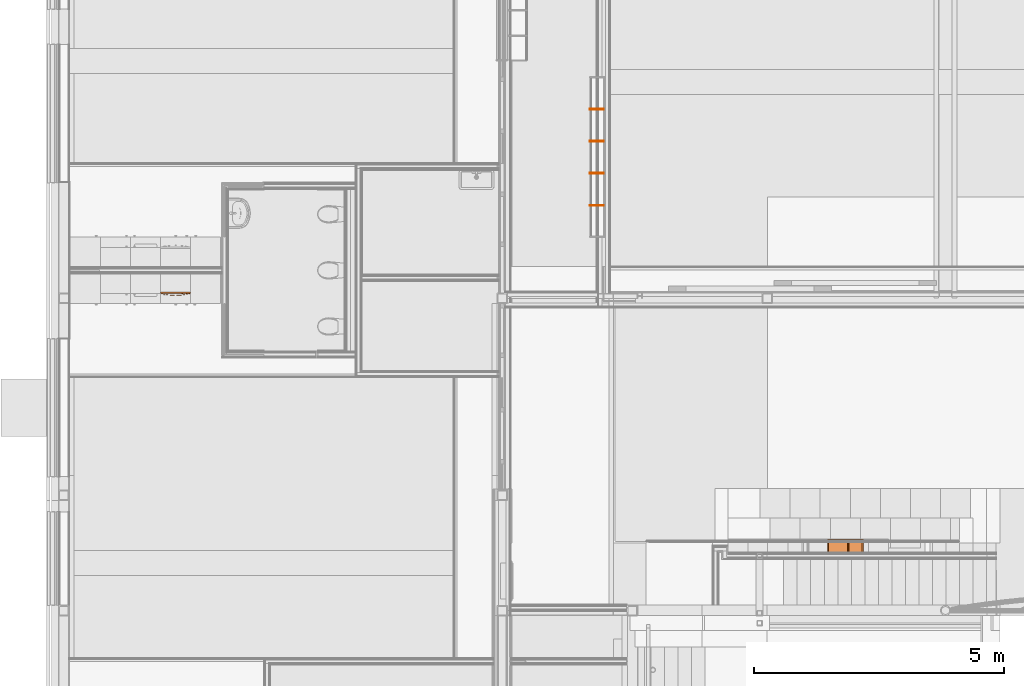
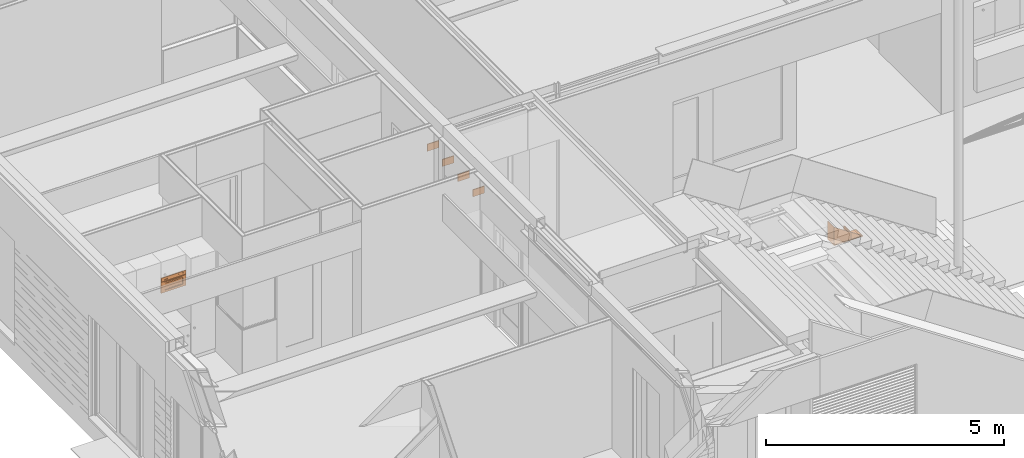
# One storey, part 162 of 165: 7 proxies.
"""IFC2X3 building model written with IfcOpenShell, lengths in millimetres."""

from ifc_helpers import new_model, entity, si_unit, converted_unit, derived_unit, money_unit, direction, frame, origin_with_axes, place, context, subcontext, project, spatial, faceted_brep, material, type_object, element, save


model = new_model("IFC2X3")

# Units and contexts
model_context = context("Model", 3, precision=0.01, world=origin_with_axes(), true_north=direction((0.0, 1.0)))
body_context = subcontext(model_context, "Body", "Model", "MODEL_VIEW")
ifc_project = project(units=[si_unit("LENGTHUNIT", "METRE", prefix="MILLI"), si_unit("AREAUNIT", "SQUARE_METRE"), si_unit("VOLUMEUNIT", "CUBIC_METRE"), converted_unit("PLANEANGLEUNIT", "DEGREE", entity("IfcPlaneAngleMeasure", 0.0174532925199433), si_unit("PLANEANGLEUNIT", "RADIAN"), dimensions=[0, 0, 0, 0, 0, 0, 0]), money_unit("EUR"), converted_unit("TIMEUNIT", "Year", entity("IfcTimeMeasure", 31556926.0), si_unit("TIMEUNIT", "SECOND"), dimensions=[0, 0, 1, 0, 0, 0, 0]), si_unit("MASSUNIT", "GRAM", prefix="KILO"), si_unit("THERMODYNAMICTEMPERATUREUNIT", "DEGREE_CELSIUS"), si_unit("LUMINOUSINTENSITYUNIT", "LUMEN"), si_unit("ENERGYUNIT", "JOULE", prefix="MEGA"), derived_unit("THERMALCONDUCTANCEUNIT", [(si_unit("POWERUNIT", "WATT"), 1), (si_unit("LENGTHUNIT", "METRE"), -1), (si_unit("THERMODYNAMICTEMPERATUREUNIT", "KELVIN"), -1)]), derived_unit("SPECIFICHEATCAPACITYUNIT", [(si_unit("ENERGYUNIT", "JOULE"), 1), (si_unit("MASSUNIT", "GRAM", prefix="KILO"), -1), (si_unit("THERMODYNAMICTEMPERATUREUNIT", "KELVIN"), -1)]), derived_unit("MASSDENSITYUNIT", [(si_unit("MASSUNIT", "GRAM", prefix="KILO"), 1), (si_unit("VOLUMEUNIT", "CUBIC_METRE"), -1)])], contexts=[model_context])

# Site, building, storey
site_placement = place(None, origin_with_axes())
site = spatial("IfcSite", under=ifc_project, at=site_placement, Name="Site", CompositionType="ELEMENT")
building_placement = place(site_placement, origin_with_axes())
building = spatial("IfcBuilding", under=site, at=building_placement, Name="Naam gebouw", CompositionType="ELEMENT")
storey_placement = place(building_placement, origin_with_axes())
storey = spatial("IfcBuildingStorey", under=building, at=storey_placement, Name="Begane grond", CompositionType="ELEMENT", Elevation=0.0)

# Proxies
ifc_material = material(Name="Hout AFW")
building_element_proxy_type_1 = type_object("IfcBuildingElementProxyType", Name="Hout AFW 18", PredefinedType="NOTDEFINED")
for number, where, z_axis, x_axis, name in (
    (1, (10882.00000000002, 13955.00003229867, 200.0000000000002), (0.0, 0.0, 1.0), (-1.0, 0.0, 0.0), "i HOUT_Wand-x"),
    (2, (10882.00000000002, 14595.00003229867, 200.0000000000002), (0.0, 0.0, 1.0), (-1.0, 0.0, 0.0), "i HOUT_Wand-x"),
):
    element("IfcBuildingElementProxy", number, at=place(storey_placement, frame(where, z_axis=z_axis, x_axis=x_axis)), inside=storey, type_object=building_element_proxy_type_1, material=ifc_material, Name=name, context=body_context, shape_type="Brep", body=[
        faceted_brep([(0.0, 18.00000000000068, 199.9999999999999), (0.0, 18.00000000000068, 17.99999999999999), (0.0, 0.0, 17.99999999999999), (0.0, 0.0, 199.9999999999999), (282.0, 18.00000000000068, 199.9999999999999), (282.0, 18.00000000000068, 17.99999999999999), (282.0, 0.0, 17.99999999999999), (282.0, 0.0, 199.9999999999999)], [[[0, 1, 2, 3]], [[4, 5, 1, 0]], [[5, 6, 2, 1]], [[3, 2, 6, 7]], [[0, 3, 7, 4]], [[7, 6, 5, 4]]]),
    ])
for number, where, z_axis, x_axis, name in (
    (3, (10882.00000000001, 12675.00003229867, 200.0000000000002), (0.0, 0.0, 1.0), (-1.0, 0.0, 0.0), "i HOUT_Wand-x"),
    (4, (10882.00000000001, 13315.00003229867, 200.0000000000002), (0.0, 0.0, 1.0), (-1.0, 0.0, 0.0), "i HOUT_Wand-x"),
):
    element("IfcBuildingElementProxy", number, at=place(storey_placement, frame(where, z_axis=z_axis, x_axis=x_axis)), inside=storey, type_object=building_element_proxy_type_1, material=ifc_material, Name=name, context=body_context, shape_type="Brep", body=[
        faceted_brep([(0.0, 18.00000000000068, 199.9999999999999), (0.0, 18.00000000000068, 17.99999999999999), (0.0, 0.0, 17.99999999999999), (0.0, 0.0, 199.9999999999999), (282.0, 18.00000000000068, 199.9999999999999), (281.9999999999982, 18.00000000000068, 17.99999999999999), (281.9999999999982, 0.0, 17.99999999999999), (282.0, 0.0, 199.9999999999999)], [[[0, 1, 2, 3]], [[4, 5, 1, 0]], [[5, 6, 2, 1]], [[3, 2, 6, 7]], [[0, 3, 7, 4]], [[7, 6, 5, 4]]]),
    ])
building_element_proxy_type_2 = type_object("IfcBuildingElementProxyType", Name="Onderkast recht 26", PredefinedType="NOTDEFINED")
proxy_1_placement = place(storey_placement, frame((16158.57015574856, 5729.997304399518, 1502.0), z_axis=(0.0, 0.0, 1.0), x_axis=(-1.0, 0.0, 0.0)))
element("IfcBuildingElementProxy", 5, at=proxy_1_placement, inside=storey, type_object=building_element_proxy_type_2, Name="_Leeg", context=body_context, shape_type="Brep", body=[
    faceted_brep([(123.5554872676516, -279.999978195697, 17.99999999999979), (96.55548726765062, -279.9999778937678, 0.0), (381.9999999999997, -280.0000000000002, 0.0), (381.9999999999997, -280.0000000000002, 18.00000000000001), (96.55549039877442, 0.0001203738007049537, 0.0), (123.5554903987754, 0.000120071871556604, 18.00000000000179), (381.9999999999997, 0.0, 0.0), (381.9999999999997, 0.0, 18.00000000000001)], [[[0, 1, 2, 3]], [[4, 1, 0, 5]], [[1, 4, 6, 2]], [[3, 2, 6, 7]], [[5, 0, 3, 7]], [[4, 5, 7, 6]]]),
    faceted_brep([(381.9999999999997, -17.99999999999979, 190.2963398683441), (123.5554901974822, -17.99999999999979, 18.00000000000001), (381.9999999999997, -17.99999999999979, 18.00000000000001), (123.5554902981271, -9.000000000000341, 18.00000000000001), (381.9999999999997, -9.000000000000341, 190.2963398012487), (381.9999999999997, -9.000000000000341, 18.00000000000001)], [[[0, 1, 2]], [[3, 1, 0, 4]], [[1, 3, 5, 2]], [[4, 0, 2, 5]], [[3, 4, 5]]]),
    faceted_brep([(400.0000000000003, -279.999981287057, 202.2963418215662), (381.9999999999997, -279.999981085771, 190.2963418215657), (381.9999999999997, -280.0000000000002, 0.0), (400.0000000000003, -280.0000000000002, 0.0), (382.0000000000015, 0.0001171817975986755, 190.2963397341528), (400.0000000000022, 0.0001169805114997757, 202.2963397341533), (381.9999999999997, 0.0, 0.0), (400.0000000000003, 0.0, 0.0)], [[[0, 1, 2, 3]], [[4, 1, 0, 5]], [[1, 4, 6, 2]], [[7, 3, 2, 6]], [[5, 0, 3, 7]], [[4, 5, 7, 6]]]),
])
proxy_2_placement = place(storey_placement, frame((15758.57015574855, 5729.997304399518, 1502.0), z_axis=(0.0, 0.0, 1.0), x_axis=(-1.0, 0.0, 0.0)))
element("IfcBuildingElementProxy", 6, at=proxy_2_placement, inside=storey, type_object=building_element_proxy_type_2, Name="_Leeg", context=body_context, shape_type="Brep", body=[
    faceted_brep([(18.00000000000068, -280.0000000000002, 18.00000000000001), (18.00000000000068, -280.0000000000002, 0.0), (391.9999999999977, -280.0000000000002, 0.0), (391.9999999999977, -280.0000000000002, 18.00000000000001), (18.00000000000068, 0.0, 18.00000000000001), (18.00000000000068, 0.0, 0.0), (391.9999999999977, 0.0, 0.0), (391.9999999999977, 0.0, 18.00000000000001)], [[[0, 1, 2, 3]], [[4, 5, 1, 0]], [[2, 1, 5, 6]], [[3, 2, 6, 7]], [[4, 0, 3, 7]], [[7, 6, 5, 4]]]),
    faceted_brep([(391.9999999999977, -17.99999999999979, 463.6296732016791), (18.00000000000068, -17.99999999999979, 214.2963398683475), (18.00000000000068, -17.99999999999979, 18.00000000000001), (391.9999999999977, -17.99999999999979, 18.00000000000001), (18.00000000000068, -9.000000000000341, 214.2963398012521), (391.9999999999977, -9.000000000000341, 463.6296731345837), (18.00000000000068, -9.000000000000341, 18.00000000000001), (391.9999999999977, -9.000000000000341, 18.00000000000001)], [[[0, 1, 2, 3]], [[4, 1, 0, 5]], [[1, 4, 6, 2]], [[6, 7, 3, 2]], [[5, 0, 3, 7]], [[4, 5, 7, 6]]]),
    faceted_brep([(18.00000000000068, -279.9999814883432, 214.2963418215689), (0.0, -279.999981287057, 202.2963418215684), (0.0, -280.0000000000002, 0.0), (18.00000000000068, -280.0000000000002, 0.0), (0.0, 0.0001169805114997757, 202.2963397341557), (18.00000000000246, 0.0001167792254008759, 214.296339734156), (0.0, 0.0, 0.0), (18.00000000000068, 0.0, 0.0)], [[[0, 1, 2, 3]], [[4, 1, 0, 5]], [[1, 4, 6, 2]], [[2, 6, 7, 3]], [[5, 0, 3, 7]], [[4, 5, 7, 6]]]),
    faceted_brep([(409.9999999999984, -279.9999858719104, 475.6296751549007), (391.9999999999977, -279.9999856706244, 463.6296751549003), (391.9999999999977, -280.0000000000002, 0.0), (409.9999999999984, -280.0000000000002, 0.0), (391.9999999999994, 0.0001125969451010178, 463.6296730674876), (410.0000000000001, 0.0001123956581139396, 475.6296730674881), (391.9999999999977, 0.0, 0.0), (409.9999999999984, 0.0, 0.0)], [[[0, 1, 2, 3]], [[4, 1, 0, 5]], [[1, 4, 6, 2]], [[7, 3, 2, 6]], [[5, 0, 3, 7]], [[4, 5, 7, 6]]]),
])
building_element_proxy_type_3 = type_object("IfcBuildingElementProxyType", Name="Oven inbouw 26", PredefinedType="NOTDEFINED")
proxy_3_placement = place(storey_placement, frame((2031.99344240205, 10914.49677686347, 1800.0), z_axis=(0.0, 0.0, 1.0), x_axis=(0.9999999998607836, -1.668630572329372e-05, 0.0)))
element("IfcBuildingElementProxy", 7, at=proxy_3_placement, inside=storey, type_object=building_element_proxy_type_3, Name="_Leeg", context=body_context, shape_type="Brep", body=[
    faceted_brep([(0.0, 20.0, 0.0), (600.0, 20.0, 0.0), (600.0, 0.0, 0.0), (0.0, 0.0, 0.0), (0.0, 20.00000000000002, 390.9999983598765), (600.0, 20.00000000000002, 390.9999983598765), (130.0, 20.0, 73.31249969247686), (470.0, 20.0, 73.31249969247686), (470.0, 20.00000000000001, 219.9374990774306), (130.0, 20.00000000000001, 219.9374990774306), (600.0, 0.0, 390.9999983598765), (0.0, 0.0, 390.9999983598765), (130.0, 0.0, 73.31249969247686), (130.0, 0.0, 219.9374990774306), (470.0, 0.0, 219.9374990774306), (470.0, 0.0, 73.31249969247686)], [[[0, 1, 2, 3]], [[0, 4, 5, 1], [6, 7, 8, 9]], [[1, 5, 10, 2]], [[3, 2, 10, 11], [12, 13, 14, 15]], [[4, 0, 3, 11]], [[5, 4, 11, 10]], [[7, 6, 12, 15]], [[8, 7, 15, 14]], [[9, 8, 14, 13]], [[6, 9, 13, 12]]]),
    faceted_brep([(130.0, 15.00000000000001, 73.31249969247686), (470.0, 15.00000000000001, 73.31249969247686), (470.0, 5.000000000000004, 73.31249969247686), (130.0, 5.000000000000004, 73.31249969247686), (130.0, 15.00000000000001, 219.9374990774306), (470.0, 15.00000000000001, 219.9374990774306), (470.0, 5.000000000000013, 219.9374990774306), (130.0, 5.000000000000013, 219.9374990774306)], [[[0, 1, 2, 3]], [[0, 4, 5, 1]], [[1, 5, 6, 2]], [[3, 2, 6, 7]], [[4, 0, 3, 7]], [[5, 4, 7, 6]]]),
    faceted_brep([(10.0, 0.0, 10.0), (590.0, 0.0, 10.0), (590.0, -10.0, 10.0), (10.0, -10.0, 10.0), (10.0, 0.0, 288.2499987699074), (590.0, 0.0, 288.2499987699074), (75.0, 0.0, 63.31249969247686), (525.0, 0.0, 63.31249969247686), (525.0, 0.0, 229.9374990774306), (75.0, 0.0, 229.9374990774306), (590.0, -9.999999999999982, 288.2499987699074), (10.0, -9.999999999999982, 288.2499987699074), (75.0, -9.999999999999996, 63.31249969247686), (75.0, -9.999999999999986, 229.9374990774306), (525.0, -9.999999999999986, 229.9374990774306), (525.0, -9.999999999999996, 63.31249969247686)], [[[0, 1, 2, 3]], [[0, 4, 5, 1], [6, 7, 8, 9]], [[1, 5, 10, 2]], [[3, 2, 10, 11], [12, 13, 14, 15]], [[4, 0, 3, 11]], [[5, 4, 11, 10]], [[7, 6, 12, 15]], [[8, 7, 15, 14]], [[9, 8, 14, 13]], [[6, 9, 13, 12]]]),
    faceted_brep([(0.0, 0.0, 303.2499987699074), (600.0, 0.0, 303.2499987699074), (600.0, -10.0, 303.2499987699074), (0.0, -10.0, 303.2499987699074), (0.0, 0.0, 390.9999983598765), (600.0, 0.0, 390.9999983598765), (75.0, 0.0, 358.4166651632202), (75.0, 0.0, 325.8333319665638), (150.0, 0.0, 325.8333319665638), (150.0, 0.0, 358.4166651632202), (600.0, -9.999999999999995, 390.9999983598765), (0.0, -9.999999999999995, 390.9999983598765), (75.0, -9.999999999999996, 358.4166651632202), (150.0, -9.999999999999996, 358.4166651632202), (150.0, -9.999999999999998, 325.8333319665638), (75.0, -9.999999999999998, 325.8333319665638)], [[[0, 1, 2, 3]], [[0, 4, 5, 1], [6, 7, 8, 9]], [[1, 5, 10, 2]], [[3, 2, 10, 11], [12, 13, 14, 15]], [[4, 0, 3, 11]], [[5, 4, 11, 10]], [[7, 6, 12, 15]], [[8, 7, 15, 14]], [[9, 8, 14, 13]], [[6, 9, 13, 12]]]),
    faceted_brep([(11.9091801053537, -10.0, 255.666665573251), (98.56811390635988, -29.21182309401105, 255.666665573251), (98.56811390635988, -29.21182309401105, 288.2499987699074), (11.9091801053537, -10.0, 288.2499987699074), (588.0908198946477, -10.0, 255.666665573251), (501.4318860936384, -29.21182309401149, 255.666665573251), (401.1006615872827, -42.42067938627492, 255.666665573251), (300.0, -46.83482959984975, 255.666665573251), (198.8993384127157, -42.42067938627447, 255.666665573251), (34.98832452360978, -10.0, 255.666665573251), (99.43635479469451, -24.28778432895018, 255.666665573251), (199.3351171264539, -37.43970589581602, 255.666665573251), (300.0, -41.83482959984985, 255.666665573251), (400.6648828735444, -37.43970589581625, 255.666665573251), (500.5636452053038, -24.2877843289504, 255.666665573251), (565.0116754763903, -9.999999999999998, 255.666665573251), (198.8993384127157, -42.42067938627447, 288.2499987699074), (300.0, -46.83482959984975, 288.2499987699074), (401.1006615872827, -42.42067938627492, 288.2499987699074), (501.4318860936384, -29.21182309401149, 288.2499987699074), (588.0908198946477, -10.0, 288.2499987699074), (565.0116754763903, -10.0, 288.2499987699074), (500.5636452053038, -24.2877843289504, 288.2499987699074), (400.6648828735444, -37.43970589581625, 288.2499987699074), (300.0, -41.83482959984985, 288.2499987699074), (199.3351171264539, -37.43970589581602, 288.2499987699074), (99.43635479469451, -24.28778432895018, 288.2499987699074), (34.98832452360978, -10.0, 288.2499987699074)], [[[0, 1, 2, 3]], [[4, 5, 6, 7, 8, 1, 0, 9, 10, 11, 12, 13, 14, 15]], [[1, 8, 16, 2]], [[3, 2, 16, 17, 18, 19, 20, 21, 22, 23, 24, 25, 26, 27]], [[0, 3, 27, 9]], [[5, 4, 20, 19]], [[6, 5, 19, 18]], [[7, 6, 18, 17]], [[8, 7, 17, 16]], [[10, 9, 27, 26]], [[11, 10, 26, 25]], [[12, 11, 25, 24]], [[13, 12, 24, 23]], [[14, 13, 23, 22]], [[15, 14, 22, 21]], [[4, 15, 21, 20]]]),
    faceted_brep([(539.9429204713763, -10.0, 340.8176624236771), (539.7721162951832, -10.0, 339.520275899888), (539.4888873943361, -10.0, 338.2427128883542), (539.0953893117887, -10.0, 336.994696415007), (538.5946168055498, -10.0, 335.7857246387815), (537.9903810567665, -10.0, 334.624998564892), (537.287280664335, -10.0, 333.5213520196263), (536.4906666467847, -10.0, 332.4831844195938), (535.6066017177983, -10.0, 331.5183968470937), (534.6418141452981, -10.0, 330.6343319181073), (533.6036465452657, -10.0, 329.8377179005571), (532.5, -10.0, 329.1346175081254), (531.3392739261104, -10.0, 328.5303817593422), (530.1303021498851, -10.0, 328.0296092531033), (528.8822856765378, -10.0, 327.636111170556), (527.604722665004, -10.0, 327.3528822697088), (526.3073361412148, -10.0, 327.1820780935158), (525.0, -10.0, 327.1249985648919), (523.6926638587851, -10.0, 327.1820780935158), (522.395277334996, -10.0, 327.3528822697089), (521.1177143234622, -10.0, 327.636111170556), (519.8696978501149, -10.0, 328.0296092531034), (518.6607260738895, -10.0, 328.5303817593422), (517.5, -10.0, 329.1346175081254), (516.3963534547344, -10.0, 329.8377179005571), (515.3581858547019, -10.0, 330.6343319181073), (514.3933982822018, -10.0, 331.5183968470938), (513.5093333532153, -10.0, 332.4831844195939), (512.712719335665, -10.0, 333.5213520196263), (512.0096189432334, -10.0, 334.624998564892), (511.4053831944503, -10.0, 335.7857246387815), (510.9046106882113, -10.0, 336.994696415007), (510.5111126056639, -10.0, 338.2427128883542), (510.2278837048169, -10.0, 339.520275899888), (510.0570795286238, -10.0, 340.8176624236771), (510.0, -10.0, 342.124998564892), (510.0570795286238, -10.0, 343.4323347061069), (510.2278837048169, -10.0, 344.7297212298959), (510.5111126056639, -10.0, 346.0072842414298), (510.9046106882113, -10.0, 347.255300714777), (511.4053831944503, -10.0, 348.4642724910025), (512.0096189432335, -10.0, 349.624998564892), (512.712719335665, -10.0, 350.7286451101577), (513.5093333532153, -10.0, 351.76681271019), (514.3933982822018, -10.0, 352.7316002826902), (515.3581858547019, -10.0, 353.6156652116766), (516.3963534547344, -10.0, 354.4122792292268), (517.5000000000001, -10.0, 355.1153796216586), (518.6607260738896, -10.0, 355.7196153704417), (519.8696978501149, -10.0, 356.2203878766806), (521.1177143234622, -9.999999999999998, 356.613885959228), (522.395277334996, -9.999999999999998, 356.8971148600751), (523.6926638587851, -9.999999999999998, 357.0679190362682), (525.0, -9.999999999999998, 357.124998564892), (526.3073361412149, -9.999999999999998, 357.0679190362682), (527.604722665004, -9.999999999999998, 356.8971148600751), (528.8822856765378, -9.999999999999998, 356.613885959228), (530.1303021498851, -10.0, 356.2203878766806), (531.3392739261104, -10.0, 355.7196153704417), (532.5, -10.0, 355.1153796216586), (533.6036465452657, -10.0, 354.4122792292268), (534.6418141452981, -10.0, 353.6156652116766), (535.6066017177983, -10.0, 352.7316002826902), (536.4906666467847, -10.0, 351.76681271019), (537.287280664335, -10.0, 350.7286451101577), (537.9903810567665, -10.0, 349.624998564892), (538.5946168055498, -10.0, 348.4642724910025), (539.0953893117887, -10.0, 347.255300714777), (539.4888873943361, -10.0, 346.0072842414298), (539.7721162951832, -10.0, 344.7297212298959), (539.9429204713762, -10.0, 343.4323347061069), (540.0, -10.0, 342.124998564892), (539.9429204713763, -20.0, 340.8176624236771), (539.7721162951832, -20.0, 339.520275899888), (539.4888873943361, -20.0, 338.2427128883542), (539.0953893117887, -20.0, 336.994696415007), (538.5946168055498, -20.0, 335.7857246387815), (537.9903810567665, -20.0, 334.624998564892), (537.287280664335, -20.0, 333.5213520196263), (536.4906666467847, -20.0, 332.4831844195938), (535.6066017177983, -20.0, 331.5183968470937), (534.6418141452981, -20.0, 330.6343319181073), (533.6036465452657, -20.0, 329.8377179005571), (532.5, -20.0, 329.1346175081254), (531.3392739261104, -20.0, 328.5303817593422), (530.1303021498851, -20.0, 328.0296092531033), (528.8822856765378, -20.0, 327.636111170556), (527.604722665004, -20.0, 327.3528822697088), (526.3073361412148, -20.0, 327.1820780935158), (525.0, -20.0, 327.1249985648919), (523.6926638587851, -20.0, 327.1820780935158), (522.395277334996, -20.0, 327.3528822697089), (521.1177143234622, -20.0, 327.636111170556), (519.8696978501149, -20.0, 328.0296092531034), (518.6607260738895, -20.0, 328.5303817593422), (517.5, -20.0, 329.1346175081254), (516.3963534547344, -20.0, 329.8377179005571), (515.3581858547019, -20.0, 330.6343319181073), (514.3933982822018, -20.0, 331.5183968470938), (513.5093333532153, -20.0, 332.4831844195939), (512.712719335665, -20.0, 333.5213520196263), (512.0096189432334, -20.0, 334.624998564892), (511.4053831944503, -20.0, 335.7857246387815), (510.9046106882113, -20.0, 336.994696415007), (510.5111126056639, -20.0, 338.2427128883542), (510.2278837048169, -20.0, 339.520275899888), (510.0570795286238, -20.0, 340.8176624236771), (510.0, -20.0, 342.124998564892), (510.0570795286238, -20.0, 343.4323347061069), (510.2278837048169, -20.0, 344.7297212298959), (510.5111126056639, -20.0, 346.0072842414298), (510.9046106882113, -20.0, 347.255300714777), (511.4053831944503, -20.0, 348.4642724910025), (512.0096189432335, -20.0, 349.624998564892), (512.712719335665, -20.0, 350.7286451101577), (513.5093333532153, -20.0, 351.76681271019), (514.3933982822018, -20.0, 352.7316002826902), (515.3581858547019, -20.0, 353.6156652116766), (516.3963534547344, -20.0, 354.4122792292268), (517.5000000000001, -20.0, 355.1153796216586), (518.6607260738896, -20.0, 355.7196153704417), (519.8696978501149, -20.0, 356.2203878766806), (521.1177143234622, -20.0, 356.613885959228), (522.395277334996, -20.0, 356.8971148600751), (523.6926638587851, -20.0, 357.0679190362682), (525.0, -20.0, 357.124998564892), (526.3073361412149, -20.0, 357.0679190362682), (527.604722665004, -20.0, 356.8971148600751), (528.8822856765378, -20.0, 356.613885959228), (530.1303021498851, -20.0, 356.2203878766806), (531.3392739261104, -20.0, 355.7196153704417), (532.5, -20.0, 355.1153796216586), (533.6036465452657, -20.0, 354.4122792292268), (534.6418141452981, -20.0, 353.6156652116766), (535.6066017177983, -20.0, 352.7316002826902), (536.4906666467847, -20.0, 351.76681271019), (537.287280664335, -20.0, 350.7286451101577), (537.9903810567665, -20.0, 349.624998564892), (538.5946168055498, -20.0, 348.4642724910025), (539.0953893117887, -20.0, 347.255300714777), (539.4888873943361, -20.0, 346.0072842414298), (539.7721162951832, -20.0, 344.7297212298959), (539.9429204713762, -20.0, 343.4323347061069), (540.0, -20.0, 342.124998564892)], [[[0, 1, 2, 3, 4, 5, 6, 7, 8, 9, 10, 11, 12, 13, 14, 15, 16, 17, 18, 19, 20, 21, 22, 23, 24, 25, 26, 27, 28, 29, 30, 31, 32, 33, 34, 35, 36, 37, 38, 39, 40, 41, 42, 43, 44, 45, 46, 47, 48, 49, 50, 51, 52, 53, 54, 55, 56, 57, 58, 59, 60, 61, 62, 63, 64, 65, 66, 67, 68, 69, 70, 71]], [[1, 0, 72, 73]], [[2, 1, 73, 74]], [[3, 2, 74, 75]], [[4, 3, 75, 76]], [[5, 4, 76, 77]], [[6, 5, 77, 78]], [[7, 6, 78, 79]], [[8, 7, 79, 80]], [[9, 8, 80, 81]], [[10, 9, 81, 82]], [[11, 10, 82, 83]], [[12, 11, 83, 84]], [[13, 12, 84, 85]], [[14, 13, 85, 86]], [[15, 14, 86, 87]], [[16, 15, 87, 88]], [[17, 16, 88, 89]], [[18, 17, 89, 90]], [[19, 18, 90, 91]], [[20, 19, 91, 92]], [[21, 20, 92, 93]], [[22, 21, 93, 94]], [[23, 22, 94, 95]], [[24, 23, 95, 96]], [[25, 24, 96, 97]], [[26, 25, 97, 98]], [[27, 26, 98, 99]], [[28, 27, 99, 100]], [[29, 28, 100, 101]], [[30, 29, 101, 102]], [[31, 30, 102, 103]], [[32, 31, 103, 104]], [[33, 32, 104, 105]], [[34, 33, 105, 106]], [[35, 34, 106, 107]], [[36, 35, 107, 108]], [[37, 36, 108, 109]], [[38, 37, 109, 110]], [[39, 38, 110, 111]], [[40, 39, 111, 112]], [[41, 40, 112, 113]], [[42, 41, 113, 114]], [[43, 42, 114, 115]], [[44, 43, 115, 116]], [[45, 44, 116, 117]], [[46, 45, 117, 118]], [[47, 46, 118, 119]], [[48, 47, 119, 120]], [[49, 48, 120, 121]], [[50, 49, 121, 122]], [[51, 50, 122, 123]], [[52, 51, 123, 124]], [[53, 52, 124, 125]], [[54, 53, 125, 126]], [[55, 54, 126, 127]], [[56, 55, 127, 128]], [[57, 56, 128, 129]], [[58, 57, 129, 130]], [[59, 58, 130, 131]], [[60, 59, 131, 132]], [[61, 60, 132, 133]], [[62, 61, 133, 134]], [[63, 62, 134, 135]], [[64, 63, 135, 136]], [[65, 64, 136, 137]], [[66, 65, 137, 138]], [[67, 66, 138, 139]], [[68, 67, 139, 140]], [[69, 68, 140, 141]], [[70, 69, 141, 142]], [[71, 70, 142, 143]], [[0, 71, 143, 72]], [[72, 143, 142, 141, 140, 139, 138, 137, 136, 135, 134, 133, 132, 131, 130, 129, 128, 127, 126, 125, 124, 123, 122, 121, 120, 119, 118, 117, 116, 115, 114, 113, 112, 111, 110, 109, 108, 107, 106, 105, 104, 103, 102, 101, 100, 99, 98, 97, 96, 95, 94, 93, 92, 91, 90, 89, 88, 87, 86, 85, 84, 83, 82, 81, 80, 79, 78, 77, 76, 75, 74, 73]]]),
    faceted_brep([(446.1929204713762, -10.0, 340.8176624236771), (446.0221162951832, -10.0, 339.520275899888), (445.738887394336, -10.0, 338.2427128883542), (445.3453893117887, -10.0, 336.994696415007), (444.8446168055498, -10.0, 335.7857246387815), (444.2403810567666, -10.0, 334.624998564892), (443.5372806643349, -10.0, 333.5213520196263), (442.7406666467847, -10.0, 332.4831844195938), (441.8566017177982, -10.0, 331.5183968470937), (440.8918141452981, -10.0, 330.6343319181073), (439.8536465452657, -10.0, 329.8377179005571), (438.7500000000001, -10.0, 329.1346175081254), (437.5892739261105, -10.0, 328.5303817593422), (436.380302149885, -10.0, 328.0296092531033), (435.1322856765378, -10.0, 327.636111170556), (433.854722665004, -10.0, 327.3528822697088), (432.5573361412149, -10.0, 327.1820780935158), (431.25, -10.0, 327.1249985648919), (429.9426638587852, -10.0, 327.1820780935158), (428.6452773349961, -10.0, 327.3528822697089), (427.3677143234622, -10.0, 327.636111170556), (426.119697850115, -10.0, 328.0296092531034), (424.9107260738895, -10.0, 328.5303817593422), (423.75, -10.0, 329.1346175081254), (422.6463534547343, -10.0, 329.8377179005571), (421.608185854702, -10.0, 330.6343319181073), (420.6433982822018, -10.0, 331.5183968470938), (419.7593333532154, -10.0, 332.4831844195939), (418.9627193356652, -10.0, 333.5213520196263), (418.2596189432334, -10.0, 334.624998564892), (417.6553831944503, -10.0, 335.7857246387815), (417.1546106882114, -10.0, 336.994696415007), (416.761112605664, -10.0, 338.2427128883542), (416.4778837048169, -10.0, 339.520275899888), (416.3070795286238, -10.0, 340.8176624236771), (416.25, -10.0, 342.124998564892), (416.3070795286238, -10.0, 343.4323347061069), (416.4778837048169, -10.0, 344.7297212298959), (416.761112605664, -10.0, 346.0072842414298), (417.1546106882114, -10.0, 347.255300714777), (417.6553831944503, -10.0, 348.4642724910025), (418.2596189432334, -10.0, 349.624998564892), (418.9627193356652, -10.0, 350.7286451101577), (419.7593333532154, -10.0, 351.76681271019), (420.6433982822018, -10.0, 352.7316002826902), (421.608185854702, -10.0, 353.6156652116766), (422.6463534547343, -10.0, 354.4122792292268), (423.75, -10.0, 355.1153796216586), (424.9107260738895, -10.0, 355.7196153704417), (426.119697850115, -10.0, 356.2203878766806), (427.3677143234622, -9.999999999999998, 356.613885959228), (428.6452773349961, -9.999999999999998, 356.8971148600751), (429.9426638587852, -9.999999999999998, 357.0679190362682), (431.25, -9.999999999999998, 357.124998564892), (432.5573361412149, -9.999999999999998, 357.0679190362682), (433.854722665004, -9.999999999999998, 356.8971148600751), (435.1322856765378, -9.999999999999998, 356.613885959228), (436.380302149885, -10.0, 356.2203878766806), (437.5892739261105, -10.0, 355.7196153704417), (438.7500000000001, -10.0, 355.1153796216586), (439.8536465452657, -10.0, 354.4122792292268), (440.8918141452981, -10.0, 353.6156652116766), (441.8566017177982, -10.0, 352.7316002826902), (442.7406666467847, -10.0, 351.76681271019), (443.5372806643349, -10.0, 350.7286451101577), (444.2403810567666, -10.0, 349.624998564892), (444.8446168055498, -10.0, 348.4642724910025), (445.3453893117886, -10.0, 347.255300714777), (445.738887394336, -10.0, 346.0072842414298), (446.0221162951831, -10.0, 344.7297212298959), (446.1929204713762, -10.0, 343.4323347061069), (446.2500000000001, -10.0, 342.124998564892), (446.1929204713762, -20.0, 340.8176624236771), (446.0221162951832, -20.0, 339.520275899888), (445.738887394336, -20.0, 338.2427128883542), (445.3453893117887, -20.0, 336.994696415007), (444.8446168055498, -20.0, 335.7857246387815), (444.2403810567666, -20.0, 334.624998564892), (443.5372806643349, -20.0, 333.5213520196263), (442.7406666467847, -20.0, 332.4831844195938), (441.8566017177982, -20.0, 331.5183968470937), (440.8918141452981, -20.0, 330.6343319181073), (439.8536465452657, -20.0, 329.8377179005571), (438.7500000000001, -20.0, 329.1346175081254), (437.5892739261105, -20.0, 328.5303817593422), (436.380302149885, -20.0, 328.0296092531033), (435.1322856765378, -20.0, 327.636111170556), (433.854722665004, -20.0, 327.3528822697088), (432.5573361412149, -20.0, 327.1820780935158), (431.25, -20.0, 327.1249985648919), (429.9426638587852, -20.0, 327.1820780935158), (428.6452773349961, -20.0, 327.3528822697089), (427.3677143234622, -20.0, 327.636111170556), (426.119697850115, -20.0, 328.0296092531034), (424.9107260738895, -20.0, 328.5303817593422), (423.75, -20.0, 329.1346175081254), (422.6463534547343, -20.0, 329.8377179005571), (421.608185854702, -20.0, 330.6343319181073), (420.6433982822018, -20.0, 331.5183968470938), (419.7593333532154, -20.0, 332.4831844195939), (418.9627193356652, -20.0, 333.5213520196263), (418.2596189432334, -20.0, 334.624998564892), (417.6553831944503, -20.0, 335.7857246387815), (417.1546106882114, -20.0, 336.994696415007), (416.761112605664, -20.0, 338.2427128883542), (416.4778837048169, -20.0, 339.520275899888), (416.3070795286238, -20.0, 340.8176624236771), (416.25, -20.0, 342.124998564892), (416.3070795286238, -20.0, 343.4323347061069), (416.4778837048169, -20.0, 344.7297212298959), (416.761112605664, -20.0, 346.0072842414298), (417.1546106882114, -20.0, 347.255300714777), (417.6553831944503, -20.0, 348.4642724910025), (418.2596189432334, -20.0, 349.624998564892), (418.9627193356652, -20.0, 350.7286451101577), (419.7593333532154, -20.0, 351.76681271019), (420.6433982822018, -20.0, 352.7316002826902), (421.608185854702, -20.0, 353.6156652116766), (422.6463534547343, -20.0, 354.4122792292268), (423.75, -20.0, 355.1153796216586), (424.9107260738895, -20.0, 355.7196153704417), (426.119697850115, -20.0, 356.2203878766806), (427.3677143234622, -20.0, 356.613885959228), (428.6452773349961, -20.0, 356.8971148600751), (429.9426638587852, -20.0, 357.0679190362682), (431.25, -20.0, 357.124998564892), (432.5573361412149, -20.0, 357.0679190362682), (433.854722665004, -20.0, 356.8971148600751), (435.1322856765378, -20.0, 356.613885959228), (436.380302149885, -20.0, 356.2203878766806), (437.5892739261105, -20.0, 355.7196153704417), (438.7500000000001, -20.0, 355.1153796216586), (439.8536465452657, -20.0, 354.4122792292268), (440.8918141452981, -20.0, 353.6156652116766), (441.8566017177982, -20.0, 352.7316002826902), (442.7406666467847, -20.0, 351.76681271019), (443.5372806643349, -20.0, 350.7286451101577), (444.2403810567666, -20.0, 349.624998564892), (444.8446168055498, -20.0, 348.4642724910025), (445.3453893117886, -20.0, 347.255300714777), (445.738887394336, -20.0, 346.0072842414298), (446.0221162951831, -20.0, 344.7297212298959), (446.1929204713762, -20.0, 343.4323347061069), (446.2500000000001, -20.0, 342.124998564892)], [[[0, 1, 2, 3, 4, 5, 6, 7, 8, 9, 10, 11, 12, 13, 14, 15, 16, 17, 18, 19, 20, 21, 22, 23, 24, 25, 26, 27, 28, 29, 30, 31, 32, 33, 34, 35, 36, 37, 38, 39, 40, 41, 42, 43, 44, 45, 46, 47, 48, 49, 50, 51, 52, 53, 54, 55, 56, 57, 58, 59, 60, 61, 62, 63, 64, 65, 66, 67, 68, 69, 70, 71]], [[1, 0, 72, 73]], [[2, 1, 73, 74]], [[3, 2, 74, 75]], [[4, 3, 75, 76]], [[5, 4, 76, 77]], [[6, 5, 77, 78]], [[7, 6, 78, 79]], [[8, 7, 79, 80]], [[9, 8, 80, 81]], [[10, 9, 81, 82]], [[11, 10, 82, 83]], [[12, 11, 83, 84]], [[13, 12, 84, 85]], [[14, 13, 85, 86]], [[15, 14, 86, 87]], [[16, 15, 87, 88]], [[17, 16, 88, 89]], [[18, 17, 89, 90]], [[19, 18, 90, 91]], [[20, 19, 91, 92]], [[21, 20, 92, 93]], [[22, 21, 93, 94]], [[23, 22, 94, 95]], [[24, 23, 95, 96]], [[25, 24, 96, 97]], [[26, 25, 97, 98]], [[27, 26, 98, 99]], [[28, 27, 99, 100]], [[29, 28, 100, 101]], [[30, 29, 101, 102]], [[31, 30, 102, 103]], [[32, 31, 103, 104]], [[33, 32, 104, 105]], [[34, 33, 105, 106]], [[35, 34, 106, 107]], [[36, 35, 107, 108]], [[37, 36, 108, 109]], [[38, 37, 109, 110]], [[39, 38, 110, 111]], [[40, 39, 111, 112]], [[41, 40, 112, 113]], [[42, 41, 113, 114]], [[43, 42, 114, 115]], [[44, 43, 115, 116]], [[45, 44, 116, 117]], [[46, 45, 117, 118]], [[47, 46, 118, 119]], [[48, 47, 119, 120]], [[49, 48, 120, 121]], [[50, 49, 121, 122]], [[51, 50, 122, 123]], [[52, 51, 123, 124]], [[53, 52, 124, 125]], [[54, 53, 125, 126]], [[55, 54, 126, 127]], [[56, 55, 127, 128]], [[57, 56, 128, 129]], [[58, 57, 129, 130]], [[59, 58, 130, 131]], [[60, 59, 131, 132]], [[61, 60, 132, 133]], [[62, 61, 133, 134]], [[63, 62, 134, 135]], [[64, 63, 135, 136]], [[65, 64, 136, 137]], [[66, 65, 137, 138]], [[67, 66, 138, 139]], [[68, 67, 139, 140]], [[69, 68, 140, 141]], [[70, 69, 141, 142]], [[71, 70, 142, 143]], [[0, 71, 143, 72]], [[72, 143, 142, 141, 140, 139, 138, 137, 136, 135, 134, 133, 132, 131, 130, 129, 128, 127, 126, 125, 124, 123, 122, 121, 120, 119, 118, 117, 116, 115, 114, 113, 112, 111, 110, 109, 108, 107, 106, 105, 104, 103, 102, 101, 100, 99, 98, 97, 96, 95, 94, 93, 92, 91, 90, 89, 88, 87, 86, 85, 84, 83, 82, 81, 80, 79, 78, 77, 76, 75, 74, 73]]]),
])

save(model, "model.ifc")
